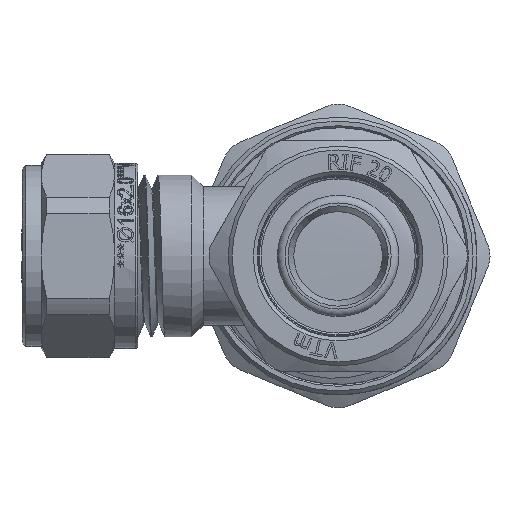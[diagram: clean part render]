
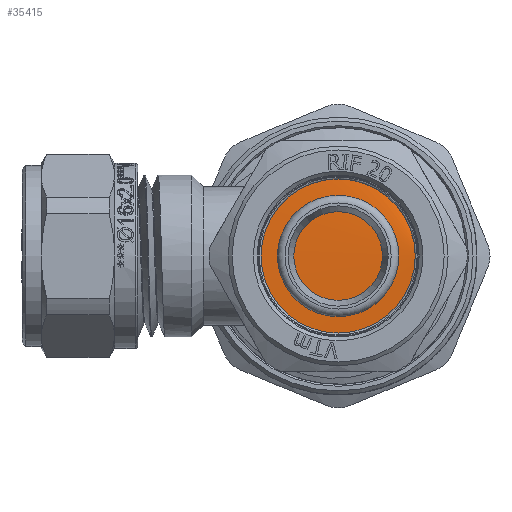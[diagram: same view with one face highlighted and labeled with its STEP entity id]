
A CAD part, left-side view. The second image highlights one B-rep face of the part: STEP entity #35415.
In plain terms, the highlighted cylindrical face has radius 11.4 mm (diameter 22.8 mm), a full revolution.
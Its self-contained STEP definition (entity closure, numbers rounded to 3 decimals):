
#2908=FACE_OUTER_BOUND('',#4924,.T.);
#4924=EDGE_LOOP('',(#23795,#23796,#23797));
#7111=B_SPLINE_CURVE_WITH_KNOTS('',3,(#45349,#45350,#45351,#45352,#45353,
#45354,#45355,#45356,#45357,#45358,#45359,#45360,#45361,#45362,#45363,#45364,
#45365),.UNSPECIFIED.,.F.,.F.,(4,1,1,1,1,1,1,1,1,1,1,1,1,1,4),(15.708,
16.109,16.596,17.082,17.569,18.055,
18.541,19.028,19.514,20.,20.487,
20.973,21.46,21.946,21.991),
 .UNSPECIFIED.);
#9440=LINE('',#45346,#11854);
#9441=LINE('',#45348,#11855);
#11854=VECTOR('',#39282,11.4);
#11855=VECTOR('',#39283,11.4);
#14268=VERTEX_POINT('',#45344);
#14269=VERTEX_POINT('',#45345);
#14270=VERTEX_POINT('',#45347);
#18106=EDGE_CURVE('',#14268,#14269,#9440,.T.);
#18107=EDGE_CURVE('',#14270,#14268,#9441,.T.);
#18108=EDGE_CURVE('',#14270,#14269,#7111,.T.);
#23795=ORIENTED_EDGE('',*,*,#18106,.F.);
#23796=ORIENTED_EDGE('',*,*,#18107,.F.);
#23797=ORIENTED_EDGE('',*,*,#18108,.T.);
#35173=CYLINDRICAL_SURFACE('',#37454,11.4);
#35415=ADVANCED_FACE('',(#2908),#35173,.T.);
#37454=AXIS2_PLACEMENT_3D('',#45343,#39280,#39281);
#39280=DIRECTION('center_axis',(1.,0.,0.));
#39281=DIRECTION('ref_axis',(0.,1.,0.));
#39282=DIRECTION('',(1.,0.,0.));
#39283=DIRECTION('',(1.,0.,0.));
#45343=CARTESIAN_POINT('Origin',(-28.4,0.,0.));
#45344=CARTESIAN_POINT('',(-23.8,-11.4,0.));
#45345=CARTESIAN_POINT('',(-22.1,-11.4,0.));
#45346=CARTESIAN_POINT('',(-28.4,-11.4,0.));
#45347=CARTESIAN_POINT('',(-23.9,-11.4,0.));
#45348=CARTESIAN_POINT('',(-28.4,-11.4,0.));
#45349=CARTESIAN_POINT('Ctrl Pts',(-23.9,-11.4,0.));
#45350=CARTESIAN_POINT('Ctrl Pts',(-23.862,-11.399,
-1.525));
#45351=CARTESIAN_POINT('Ctrl Pts',(-23.777,-10.717,-4.899));
#45352=CARTESIAN_POINT('Ctrl Pts',(-23.646,-7.485,
-9.199));
#45353=CARTESIAN_POINT('Ctrl Pts',(-23.506,-2.317,
-11.631));
#45354=CARTESIAN_POINT('Ctrl Pts',(-23.367,3.389,-11.365));
#45355=CARTESIAN_POINT('Ctrl Pts',(-23.228,8.308,-8.463));
#45356=CARTESIAN_POINT('Ctrl Pts',(-23.088,11.3,-3.598));
#45357=CARTESIAN_POINT('Ctrl Pts',(-22.949,11.672,2.101));
#45358=CARTESIAN_POINT('Ctrl Pts',(-22.81,9.336,7.313));
#45359=CARTESIAN_POINT('Ctrl Pts',(-22.67,4.835,10.829));
#45360=CARTESIAN_POINT('Ctrl Pts',(-22.531,-0.788,
11.833));
#45361=CARTESIAN_POINT('Ctrl Pts',(-22.392,-6.228,
10.092));
#45362=CARTESIAN_POINT('Ctrl Pts',(-22.252,-10.223,
6.011));
#45363=CARTESIAN_POINT('Ctrl Pts',(-22.155,-11.356,
2.191));
#45364=CARTESIAN_POINT('Ctrl Pts',(-22.104,-11.401,
0.172));
#45365=CARTESIAN_POINT('Ctrl Pts',(-22.1,-11.401,0.));
